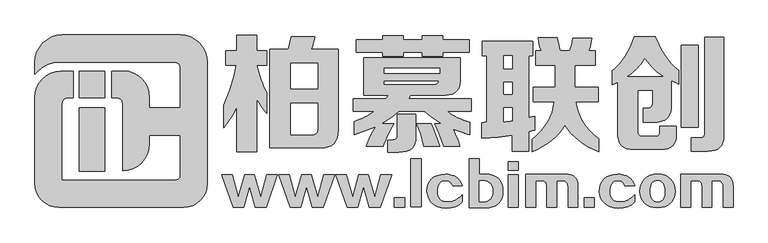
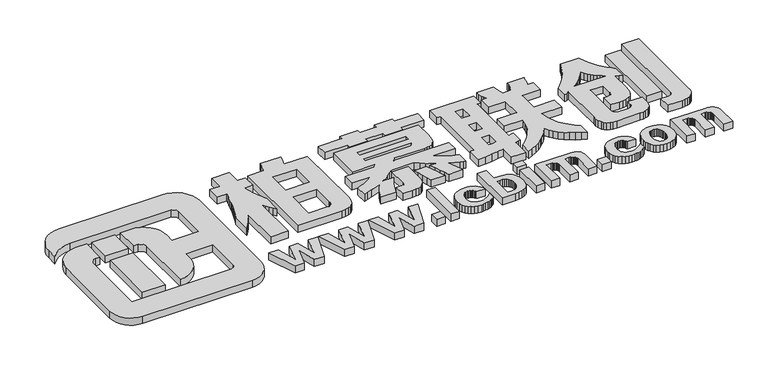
"""IFC4 building model written with IfcOpenShell, lengths in millimetres: proxy geometry, 柏慕联创LOGO横向 : 柏慕联创LOGO横向."""

from ifc_helpers import new_model, si_unit, point, frame_2d, origin, origin_with_axes, place, context, project, spatial, polyline, circle_curve, trimmed, segment, composite_curve, outline, extrude, source, transform, mapped, element, save


def generic_models_1ff84f2f(model_context):
    return source(origin(), model_context, "Body", "SweptSolid", [
        extrude(outline(polyline([(4777.6012259, 166.4614982), (4445.5447228, -774.7196972), (4119.5642765, -774.7196972), (3959.4601803, -196.5828945), (3953.3841236, -196.5828945), (3781.1279138, -774.7196972), (3473.3756379, -774.7196972), (3141.3191348, 166.4614982), (3455.1474675, 166.4614982), (3633.479734, -491.879254), (3811.8120006, 166.4614982), (4101.0323033, 166.4614982), (4285.4406266, -491.879254), (4464.076696, 166.4614982), (4777.6012259, 166.4614982)])), origin_with_axes(), (0.0, 0.0, 1.0), 250.0),
        extrude(outline(polyline([(6449.732052, 166.4614982), (6117.6755489, -774.7196972), (5791.6951026, -774.7196972), (5631.5910065, -196.5828945), (5625.5149497, -196.5828945), (5453.2587399, -774.7196972), (5145.506464, -774.7196972), (4813.4499609, 166.4614982), (5127.2782936, 166.4614982), (5305.6105602, -491.879254), (5483.9428267, 166.4614982), (5773.1631295, 166.4614982), (5957.5714528, -491.879254), (6136.2075221, 166.4614982), (6449.732052, 166.4614982)])), origin_with_axes(), (0.0, 0.0, 1.0), 250.0),
        extrude(outline(polyline([(8121.8628781, 166.4614982), (7789.8063751, -774.7196972), (7463.8259288, -774.7196972), (7303.7218326, -196.5828945), (7297.6457758, -196.5828945), (7125.3895661, -774.7196972), (6817.6372901, -774.7196972), (6485.580787, 166.4614982), (6799.4091198, 166.4614982), (6977.7413863, -491.879254), (7156.0736528, 166.4614982), (7445.2939556, 166.4614982), (7629.7022789, -491.879254), (7808.3383482, 166.4614982), (8121.8628781, 166.4614982)])), origin_with_axes(), (0.0, 0.0, 1.0), 250.0),
        extrude(outline(polyline([(8502.2240326, -787.1756136), (8206.9276731, -787.1756136), (8206.9276731, -497.9553108), (8502.2240326, -497.9553108), (8502.2240326, -787.1756136)])), origin_with_axes(), (0.0, 0.0, 1.0), 250.0),
        extrude(outline(polyline([(8986.1819552, -768.6436404), (8690.8855957, -768.6436404), (8690.8855957, 634.0140675), (8986.1819552, 634.0140675), (8986.1819552, -768.6436404)])), origin_with_axes(), (0.0, 0.0, 1.0), 250.0),
        extrude(outline(polyline([(10199.2666916, -153.4428913), (9910.0463888, -153.4428913), (9894.5904193, -117.4137734), (9875.8685694, -86.1885378), (9853.8808389, -59.7671847), (9828.6272279, -38.1497139), (9800.1077364, -21.3361255), (9768.3223644, -9.3264195), (9733.2711118, -2.120596), (9694.9539787, 0.2813452), (9641.4561976, -7.3754357), (9594.8889186, -24.2697217), (9555.252142, -50.4015128), (9522.5458676, -85.7708089), (9496.7700955, -130.3776101), (9477.9248256, -184.2219164), (9466.010058, -247.3037278), (9461.0257927, -319.6230443), (9466.0242988, -391.6812802), (9481.019817, -454.1317513), (9506.0123474, -506.9744576), (9541.0018901, -550.2093991), (9585.9884448, -583.8365759), (9640.9720118, -607.8559878), (9705.9525909, -622.267635), (9780.9301822, -627.0715174), (9831.85988, -623.8056369), (9883.1788252, -614.0079953), (9934.8870178, -597.6785927), (9986.9844578, -574.8174291), (10039.4711451, -545.4245044), (10092.3470799, -509.4998187), (10145.612262, -467.0433719), (10199.2666916, -418.0551641), (10199.2666916, -627.0715174), (10153.8956363, -668.9393461), (10103.9105755, -705.2247977), (10049.311509, -735.9278722), (9990.0984369, -761.0485694), (9926.2713592, -780.5868895), (9857.8302758, -794.5428324), (9784.7751869, -802.9163982), (9707.1060923, -805.7075868), (9586.8381434, -792.5348855), (9481.3805829, -765.3207968), (9390.7334108, -724.0653207), (9314.8966271, -668.7684571), (9253.8702318, -599.430206), (9207.6542249, -516.0505674), (9176.2486064, -418.6295414), (9159.6533763, -307.1671279), (9172.0713174, -194.5417191), (9200.0591539, -96.5178343), (9243.616886, -13.0954735), (9302.7445135, 55.7253634), (9377.4420366, 109.9446763), (9467.7094551, 149.5624653), (9573.5467692, 174.5787303), (9694.9539787, 184.9934714), (9790.2911072, 179.7054032), (9876.4002244, 163.8411987), (9953.2813303, 137.4008579), (10020.934425, 100.3843807), (10079.3595085, 52.7917672), (10128.5565808, -5.3769826), (10168.5256418, -74.1218688), (10199.2666916, -153.4428913)])), origin_with_axes(), (0.0, 0.0, 1.0), 250.0),
        extrude(outline(polyline([(10856.3922324, -799.3277271), (10394.9157199, -799.3277271), (10394.9157199, 640.0901243), (10690.2120795, 640.0901243), (10690.2120795, 191.0695282), (10856.3922324, 191.0695282), (10980.3580315, 183.1848951), (11087.7950574, 159.5309959), (11178.7033101, 120.1078307), (11253.0827895, 64.9153993), (11310.9334958, -6.0462983), (11352.2554288, -92.7772619), (11377.0485886, -195.2774916), (11385.3129752, -313.5469875), (11378.377726, -428.7974426), (11354.5339501, -528.4685084), (11313.7816474, -612.5601849), (11256.1208179, -681.072472), (11181.5514617, -734.0053698), (11090.0735787, -771.3588783), (10981.6871689, -793.1329974), (10856.3922324, -799.3277271)]), holes=[polyline([(10794.7202561, 0.2813452), (10690.2120795, 0.2813452), (10690.2120795, -620.9954606), (10800.7963129, -620.9954606), (10868.5823213, -616.2865166), (10927.3301953, -602.1596846), (10977.0399349, -578.6149646), (11017.71154, -545.6523565), (11049.3450106, -503.2718605), (11071.9403467, -451.4734764), (11085.4975484, -390.2572044), (11090.0166156, -319.6230443), (11086.7317475, -243.3163156), (11073.8391145, -177.3863526), (11051.3387167, -121.8331553), (11019.2305542, -76.6567237), (10977.5146268, -41.8570579), (10926.1909347, -17.4341578), (10865.2594778, -3.3880234), (10794.7202561, 0.2813452)])]), origin_with_axes(), (0.0, 0.0, 1.0), 250.0),
        extrude(outline(polyline([(11844.359065, 308.0336212), (11549.0627055, 308.0336212), (11549.0627055, 547.7340612), (11844.359065, 547.7340612), (11844.359065, 308.0336212)])), origin_with_axes(), (0.0, 0.0, 1.0), 250.0),
        extrude(outline(polyline([(11844.359065, -774.7196972), (11549.0627055, -774.7196972), (11549.0627055, 166.4614982), (11844.359065, 166.4614982), (11844.359065, -774.7196972)])), origin_with_axes(), (0.0, 0.0, 1.0), 250.0),
        extrude(outline(polyline([(13586.6683469, -774.7196972), (13297.4480442, -774.7196972), (13297.4480442, -184.1269781), (13293.042903, -140.9062773), (13282.8655079, -103.4483366), (13266.9158588, -71.753156), (13245.1939559, -45.8207356), (13217.6997989, -25.6510752), (13184.433388, -11.244175), (13145.3947232, -2.6000348), (13100.5838045, 0.2813452), (12965.0877383, 0.2813452), (12965.0877383, -774.7196972), (12676.1712383, -774.7196972), (12676.1712383, -171.9748645), (12673.3800497, -131.6023153), (12665.006484, -96.6127727), (12651.0505411, -67.0062367), (12631.512221, -42.7827072), (12606.3915237, -23.9421843), (12575.6884493, -10.4846679), (12539.4029977, -2.410158), (12497.535169, 0.2813452), (12343.8109324, 0.2813452), (12343.8109324, -774.7196972), (12054.5906296, -774.7196972), (12054.5906296, 184.9934714), (13205.0919811, 184.9934714), (13297.1822167, 182.2687397), (13376.5886837, 168.0184878), (13443.3113823, 142.2427156), (13497.3503123, 104.9414233), (13538.7054737, 56.1146108), (13567.3768667, -4.237722), (13583.3644911, -76.1155749), (13586.6683469, -159.5189481), (13586.6683469, -774.7196972)])), origin_with_axes(), (0.0, 0.0, 1.0), 250.0),
        extrude(outline(polyline([(14063.0311986, -787.1756136), (13767.734839, -787.1756136), (13767.734839, -497.9553108), (14063.0311986, -497.9553108), (14063.0311986, -787.1756136)])), origin_with_axes(), (0.0, 0.0, 1.0), 250.0),
        extrude(outline(polyline([(15254.5459333, -153.4428913), (14965.3256305, -153.4428913), (14949.8696611, -117.4137734), (14931.1478112, -86.1885378), (14909.1600807, -59.7671847), (14883.9064697, -38.1497139), (14855.3869782, -21.3361255), (14823.6016061, -9.3264195), (14788.5503536, -2.120596), (14750.2332205, 0.2813452), (14696.7354393, -7.3754357), (14650.1681604, -24.2697217), (14610.5313837, -50.4015128), (14577.8251093, -85.7708089), (14552.0493372, -130.3776101), (14533.2040674, -184.2219164), (14521.2892998, -247.3037278), (14516.3050344, -319.6230443), (14521.3035405, -391.6812802), (14536.2990588, -454.1317513), (14561.2915892, -506.9744576), (14596.2811318, -550.2093991), (14641.2676866, -583.8365759), (14696.2512535, -607.8559878), (14761.2318327, -622.267635), (14836.209424, -627.0715174), (14887.1391218, -623.8056369), (14938.458067, -614.0079953), (14990.1662596, -597.6785927), (15042.2636995, -574.8174291), (15094.7503869, -545.4245044), (15147.6263217, -509.4998187), (15200.8915038, -467.0433719), (15254.5459333, -418.0551641), (15254.5459333, -627.0715174), (15209.1748781, -668.9393461), (15159.1898172, -705.2247977), (15104.5907507, -735.9278722), (15045.3776786, -761.0485694), (14981.5506009, -780.5868895), (14913.1095176, -794.5428324), (14840.0544286, -802.9163982), (14762.3853341, -805.7075868), (14642.1173852, -792.5348855), (14536.6598247, -765.3207968), (14446.0126526, -724.0653207), (14370.1758689, -668.7684571), (14309.1494736, -599.430206), (14262.9334667, -516.0505674), (14231.5278482, -418.6295414), (14214.9326181, -307.1671279), (14227.3505591, -194.5417191), (14255.3383957, -96.5178343), (14298.8961277, -13.0954735), (14358.0237553, 55.7253634), (14432.7212783, 109.9446763), (14522.9886969, 149.5624653), (14628.8260109, 174.5787303), (14750.2332205, 184.9934714), (14845.5703489, 179.7054032), (14931.6794661, 163.8411987), (15008.5605721, 137.4008579), (15076.2136668, 100.3843807), (15134.6387503, 52.7917672), (15183.8358225, -5.3769826), (15223.8048835, -74.1218688), (15254.5459333, -153.4428913)])), origin_with_axes(), (0.0, 0.0, 1.0), 250.0),
        extrude(outline(polyline([(16434.5161602, -313.5469875), (16422.3877812, -423.4144361), (16395.2686309, -519.2404972), (16353.1587093, -601.0251709), (16296.0580163, -668.7684571), (16223.966552, -722.4703558), (16136.8843163, -762.130867), (16034.8113093, -787.7499908), (15917.747531, -799.3277271), (15802.01289, -786.3543965), (15700.8892669, -759.7384197), (15614.3766616, -719.4797966), (15542.475074, -665.5785272), (15485.1845043, -598.0346117), (15442.5049523, -516.8480498), (15414.4364181, -422.0188418), (15400.9789017, -313.5469875), (15414.5313565, -199.3313608), (15442.8847059, -99.7267518), (15486.0389498, -14.7331607), (15543.9940882, 55.6494127), (15616.7501213, 111.4209682), (15704.3070489, 152.581506), (15806.664871, 179.131026), (15923.8235877, 191.0695282), (16039.4632903, 180.4601634), (16140.3020982, 154.8600273), (16226.3400116, 114.2691198), (16297.5770305, 58.6874411), (16354.0131548, -11.8850091), (16395.6483845, -97.4482305), (16422.4827196, -198.0022233), (16434.5161602, -313.5469875)]), holes=[polyline([(16139.2198006, -313.5469875), (16134.430159, -241.3226094), (16123.0992625, -178.5256132), (16105.2271111, -125.1559988), (16080.8137048, -81.2137663), (16049.8590437, -46.6989157), (16012.3631277, -21.6114468), (15968.3259567, -5.9513599), (15917.747531, 0.2813452), (15867.2640436, -4.6222225), (15823.5116878, -19.3329256), (15786.4904637, -43.850764), (15756.2003713, -78.1757379), (15732.6414105, -122.3078472), (15715.8135814, -176.2470919), (15705.7168839, -239.993472), (15702.3513181, -313.5469875), (15707.0460213, -384.276086), (15718.0921027, -445.7771732), (15735.4895621, -498.0502492), (15759.2383997, -541.0953139), (15789.3386154, -574.9123675), (15825.7902091, -599.5014097), (15868.593181, -614.8624408), (15917.747531, -620.9954606), (15969.6550942, -616.1915782), (16014.6416489, -601.779931), (16052.7071953, -577.7605191), (16083.8517332, -544.1333423), (16108.0752627, -500.8984008), (16125.3777838, -448.0556945), (16135.7592964, -385.6052234), (16139.2198006, -313.5469875)])]), origin_with_axes(), (0.0, 0.0, 1.0), 250.0),
        extrude(outline(polyline([(18136.4196645, -774.7196972), (17847.1993618, -774.7196972), (17847.1993618, -184.1269781), (17842.7942206, -140.9062773), (17832.6168255, -103.4483366), (17816.6671764, -71.753156), (17794.9452734, -45.8207356), (17767.4511165, -25.6510752), (17734.1847056, -11.244175), (17695.1460408, -2.6000348), (17650.3351221, 0.2813452), (17514.8390558, 0.2813452), (17514.8390558, -774.7196972), (17225.9225559, -774.7196972), (17225.9225559, -171.9748645), (17223.1313673, -131.6023153), (17214.7578016, -96.6127727), (17200.8018587, -67.0062367), (17181.2635386, -42.7827072), (17156.1428413, -23.9421843), (17125.4397669, -10.4846679), (17089.1543153, -2.410158), (17047.2864865, 0.2813452), (16893.56225, 0.2813452), (16893.56225, -774.7196972), (16604.3419472, -774.7196972), (16604.3419472, 184.9934714), (17754.8432987, 184.9934714), (17846.9335343, 182.2687397), (17926.3400013, 168.0184878), (17993.0626999, 142.2427156), (18047.1016299, 104.9414233), (18088.4567913, 56.1146108), (18117.1281843, -4.237722), (18133.1158087, -76.1155749), (18136.4196645, -159.5189481), (18136.4196645, -774.7196972)])), origin_with_axes(), (0.0, 0.0, 1.0), 250.0),
        extrude(outline(polyline([(4556.8978666, 960.5221339), (4556.8978666, 3847.1253635), (5097.0001581, 3847.1253635), (5126.0769975, 3953.6192877), (5155.1538369, 4097.1861821), (5169.6922566, 4163.3359917), (5184.2306763, 4214.9473816), (5870.4440857, 4214.9473816), (5822.6490309, 4020.1325578), (5796.1618476, 3930.9030069), (5767.9482269, 3847.1253635), (6555.9305741, 3847.1253635), (6555.9305741, 1493.3552156), (6550.8989179, 1365.2921828), (6528.5347395, 1254.788835), (6488.8380388, 1161.8451722), (6431.808816, 1086.4611945), (6357.4470709, 1028.6369018), (6265.7528036, 988.3722941), (6156.726014, 965.6673715), (6030.3667023, 960.5221339), (4556.8978666, 960.5221339)]), holes=[polyline([(5160.2422838, 3434.2342443), (5160.2422838, 2691.3209981), (5952.5861569, 2691.3209981), (5952.5861569, 3434.2342443), (5160.2422838, 3434.2342443)]), polyline([(5952.5861569, 1539.1512376), (5952.5861569, 2263.8914592), (5160.2422838, 2263.8914592), (5160.2422838, 1342.8825718), (5794.1173823, 1342.8825718), (5834.5977946, 1345.9492697), (5869.1719739, 1355.1493634), (5897.8399203, 1370.4828529), (5920.6016336, 1391.9497382), (5937.4571139, 1419.5500194), (5948.4063613, 1453.2836963), (5953.4493756, 1493.1507691), (5952.5861569, 1539.1512376)])]), origin_with_axes(), (0.0, 0.0, 1.0), 250.0),
        extrude(outline(polyline([(3263.7054352, 3380.4420914), (3263.7054352, 3807.8716303), (3587.1852733, 3807.8716303), (3587.1852733, 4264.3780086), (4175.9912708, 4264.3780086), (4175.9912708, 3807.8716303), (4455.8558498, 3807.8716303), (4455.8558498, 3380.4420914), (4175.9912708, 3380.4420914), (4199.7638586, 3277.8553675), (4226.739442, 3176.1772948), (4256.918021, 3075.4078733), (4290.2995956, 2975.547103), (4326.8841657, 2876.594984), (4366.6717315, 2778.5515162), (4409.6622929, 2681.4166997), (4455.8558498, 2585.1905343), (4455.8558498, 1981.8461172), (4377.5755463, 2084.1148132), (4304.8380153, 2184.4753416), (4237.6432568, 2282.9277025), (4175.9912708, 2379.4718957), (4175.9912708, 848.5763023), (3587.1852733, 848.5763023), (3587.1852733, 2158.4879164), (3513.6753887, 2010.3777658), (3425.4453542, 1860.4503128), (3322.4951698, 1708.7055572), (3204.8248354, 1555.1434993), (3204.8248354, 2202.8300965), (3265.2728586, 2353.2118752), (3321.5865186, 2502.6850026), (3373.7658155, 2651.2494788), (3421.8107493, 2798.9053038), (3465.72132, 2945.6524775), (3505.4975277, 3091.4910001), (3541.1393722, 3236.4208713), (3572.6468536, 3380.4420914), (3263.7054352, 3380.4420914)])), origin_with_axes(), (0.0, 0.0, 1.0), 250.0),
        extrude(outline(polyline([(7022.6138461, 1340.7018088), (7022.6138461, 1732.5122195), (7109.3105317, 1762.7248729), (7192.3953286, 1795.2091544), (7271.8682368, 1829.965064), (7347.7292565, 1866.9926016), (7419.9783874, 1906.2917674), (7488.6156298, 1947.8625612), (7553.6409835, 1991.704983), (7615.0544485, 2037.819033), (6992.8100858, 2037.819033), (6992.8100858, 2405.6410512), (7958.8880742, 2405.6410512), (8033.0340146, 2508.863831), (7301.7515042, 2508.863831), (7301.7515042, 3609.4222015), (10138.1971858, 3609.4222015), (10138.1971858, 3044.6045966), (10137.5611299, 2912.679796), (10121.1145427, 2799.3141968), (10088.857424, 2704.5077991), (10040.7897739, 2628.2606027), (9976.9115924, 2570.5726077), (9897.2228794, 2531.443814), (9801.7236351, 2510.8742218), (9690.4138593, 2508.863831), (8690.1705846, 2508.863831), (8675.0869742, 2490.5090761), (8660.3668243, 2464.5216509), (8634.1976688, 2427.6304109), (8615.2977232, 2405.6410512), (10461.6770239, 2405.6410512), (10461.6770239, 2037.819033), (9750.0213801, 2037.819033), (9819.2946783, 1985.1172616), (9892.6341907, 1936.0500952), (9970.0399174, 1890.6175336), (10051.5118584, 1848.819577), (10137.0500136, 1810.6562253), (10226.6543831, 1776.1274786), (10320.3249668, 1745.2333367), (10418.0617648, 1717.9737998), (10418.0617648, 1340.7018088), (10344.4610152, 1362.5094384), (10241.4199656, 1398.8554876), (9928.8439423, 1500.6244254), (9991.4045795, 1366.1440433), (10044.606109, 1238.932871), (10088.4485309, 1118.9909086), (10122.9318451, 1006.318156), (9645.3447583, 1006.318156), (9595.9595639, 1172.5558986), (9537.2152618, 1336.8854737), (9469.1118521, 1499.3068811), (9391.6493347, 1659.820121), (9601.0025782, 1659.820121), (9473.2007826, 1737.9641269), (9343.4908195, 1827.0119475), (9211.8726887, 1926.9635829), (9078.3463904, 2037.819033), (8331.7985393, 2037.819033), (8216.1272376, 1935.1868765), (8093.0049958, 1839.5513345), (7962.431814, 1750.9124069), (7824.4076921, 1669.2700938), (8182.7797374, 1669.2700938), (8068.9711708, 1456.6457059), (7981.2408945, 1275.2789202), (7919.5889085, 1125.1697369), (7898.5422743, 1061.8367461), (7884.0152128, 1006.318156), (7376.6243656, 1006.318156), (7433.3242024, 1156.2001765), (7499.474012, 1300.5394244), (7575.0737944, 1439.3358999), (7660.1235496, 1572.5896029), (7301.7515042, 1442.4707467), (7143.6461901, 1387.9516728), (7022.6138461, 1340.7018088)]), holes=[polyline([(9332.7687349, 2818.5321704), (9367.4224213, 2820.0882356), (9397.9644607, 2824.7564313), (9424.3948534, 2832.5367575), (9446.7135993, 2843.4292141), (9464.9206983, 2857.4338012), (9479.0161505, 2874.5505187), (9488.9999559, 2894.7793668), (9494.8721145, 2918.1203452), (7905.0959213, 2918.1203452), (7905.0959213, 2818.5321704), (9332.7687349, 2818.5321704)]), polyline([(7905.0959213, 3299.7538621), (7905.0959213, 3153.6427442), (9534.8527686, 3153.6427442), (9534.8527686, 3299.7538621), (7905.0959213, 3299.7538621)])]), origin_with_axes(), (0.0, 0.0, 1.0), 250.0),
        extrude(outline(polyline([(7860.0268203, 3641.4067248), (7860.0268203, 3759.1679243), (7080.0406039, 3759.1679243), (7080.0406039, 4126.9899425), (7860.0268203, 4126.9899425), (7860.0268203, 4244.751142), (8463.3712375, 4244.751142), (8463.3712375, 4126.9899425), (9023.1003955, 4126.9899425), (9023.1003955, 4244.751142), (9626.4448127, 4244.751142), (9626.4448127, 4126.9899425), (10406.4310291, 4126.9899425), (10406.4310291, 3759.1679243), (9626.4448127, 3759.1679243), (9626.4448127, 3641.4067248), (9023.1003955, 3641.4067248), (9023.1003955, 3759.1679243), (8463.3712375, 3759.1679243), (8463.3712375, 3641.4067248), (7860.0268203, 3641.4067248)])), origin_with_axes(), (0.0, 0.0, 1.0), 250.0),
        extrude(outline(polyline([(9279.7035031, 1668.5431729), (9355.8484762, 1494.6727599), (9422.906937, 1326.3451194), (9480.8788855, 1163.5602514), (9529.7643218, 1006.318156), (9073.2579435, 1006.318156), (9026.4624051, 1196.5442911), (8974.0332291, 1370.323839), (8915.9704154, 1527.6567995), (8852.2739642, 1668.5431729), (9279.7035031, 1668.5431729)])), origin_with_axes(), (0.0, 0.0, 1.0), 250.0),
        extrude(outline(polyline([(8284.5486753, 1939.6847001), (8829.7394137, 1939.6847001), (8829.7394137, 1277.4596832), (8825.0939342, 1170.6931636), (8803.8882861, 1078.6467939), (8766.1224694, 1001.3205742), (8711.7964839, 938.7145044), (8640.9103298, 890.8285845), (8553.464007, 857.6628146), (8449.4575155, 839.2171946), (8328.8908553, 835.4917246), (8004.6840962, 835.4917246), (8004.6840962, 1188.7753231), (8136.9837154, 1188.7753231), (8174.7495322, 1190.8425046), (8206.9952927, 1197.0440493), (8233.7209971, 1207.379957), (8254.9266451, 1221.8502279), (8270.612237, 1240.4548618), (8280.7777727, 1263.1938589), (8285.4232521, 1290.067219), (8284.5486753, 1321.0749423), (8284.5486753, 1939.6847001)])), origin_with_axes(), (0.0, 0.0, 1.0), 250.0),
        extrude(outline(polyline([(10786.610704, 3666.8489593), (10786.610704, 4079.7400785), (12267.3487495, 4079.7400785), (12267.3487495, 3666.8489593), (12149.58755, 3666.8489593), (12149.58755, 1841.5503672), (12237.7267193, 1867.1743319), (12326.2293492, 1885.8925472), (12326.2293492, 1473.728349), (12237.7267193, 1455.0101337), (12149.58755, 1429.3861689), (12149.58755, 855.1185912), (11664.0043323, 855.1185912), (11664.0043323, 1326.1633891), (11455.0599818, 1293.1339169), (11236.7565237, 1267.4645196), (11009.0939578, 1249.1551973), (10772.0722843, 1238.20595), (10772.0722843, 1693.9854073), (10805.3289193, 1697.8017425), (10845.4913037, 1709.250748), (10919.6372442, 1709.250748), (10919.6372442, 3666.8489593), (10786.610704, 3666.8489593)]), holes=[polyline([(11405.2204618, 3666.8489593), (11405.2204618, 3281.5808375), (11664.0043323, 3281.5808375), (11664.0043323, 3666.8489593), (11405.2204618, 3666.8489593)]), polyline([(11405.2204618, 2883.228138), (11405.2204618, 2537.2137494), (11664.0043323, 2537.2137494), (11664.0043323, 2883.228138), (11405.2204618, 2883.228138)]), polyline([(11405.2204618, 1726.6968516), (11469.9164294, 1728.5595866), (11534.6123971, 1734.1477917), (11599.3083647, 1743.4614668), (11664.0043323, 1756.500612), (11664.0043323, 2138.8610498), (11405.2204618, 2138.8610498), (11405.2204618, 1726.6968516)])]), origin_with_axes(), (0.0, 0.0, 1.0), 250.0),
        extrude(outline(polyline([(12348.7638997, 3387.7113012), (12348.7638997, 3800.6024205), (12525.405699, 3800.6024205), (12485.6976402, 3885.3341477), (12455.257824, 3977.4259499), (12434.0862503, 4076.8778271), (12422.1829192, 4183.6897793), (12981.1851563, 4183.6897793), (12997.9043389, 4088.0542373), (13018.2581265, 3992.3278301), (13042.246519, 3896.5105579), (13069.8695164, 3800.6024205), (13349.0071744, 3800.6024205), (13382.3546746, 3889.8774039), (13408.2512347, 3981.0605549), (13426.6968546, 4074.1518734), (13437.6915345, 4169.1513596), (13997.4206926, 4169.1513596), (13993.6043575, 4146.7985393), (13982.1553519, 4110.2707599), (13965.7541972, 4013.4994038), (13945.6275725, 3929.6308952), (13921.7754777, 3858.6652341), (13894.1979128, 3800.6024205), (14099.9165514, 3800.6024205), (14099.9165514, 3387.7113012), (13496.5721343, 3387.7113012), (13496.5721343, 2730.5747312), (14188.6009116, 2730.5747312), (14188.6009116, 2317.683612), (13526.3758947, 2317.683612), (13549.8304545, 2162.1679539), (13590.7538343, 2012.1950683), (13649.1460341, 1867.7649552), (13725.0070537, 1728.8776146), (13818.3368932, 1595.5330465), (13929.1355526, 1467.7312509), (14057.403032, 1345.4722278), (14203.1393312, 1228.7559772), (14203.1393312, 845.6686184), (14036.1178769, 919.0762797), (13881.0679025, 999.366974), (13737.9894081, 1086.5407015), (13606.8823937, 1180.597462), (13487.7468592, 1281.5372556), (13380.5828047, 1389.3600822), (13285.3902301, 1504.065942), (13202.1691356, 1625.6548348), (13126.0014461, 1507.2462213), (13037.4306674, 1394.8119896), (12936.4567994, 1288.3521398), (12823.0798421, 1187.8666718), (12697.2997955, 1093.3555857), (12559.1166596, 1004.8188814), (12408.5304344, 922.256559), (12245.5411199, 845.6686184), (12245.5411199, 1213.4906365), (12384.462535, 1333.7847013), (12506.8237813, 1459.1444968), (12612.624859, 1589.5700228), (12701.865768, 1725.0612794), (12774.5465083, 1865.6182666), (12830.6670799, 2011.2409845), (12870.2274829, 2161.929433), (12893.2277171, 2317.683612), (12274.6179593, 2317.683612), (12274.6179593, 2730.5747312), (12922.3045565, 2730.5747312), (12922.3045565, 3387.7113012), (12348.7638997, 3387.7113012)])), origin_with_axes(), (0.0, 0.0, 1.0), 250.0),
        extrude(outline(polyline([(16611.428553, 1566.047314), (16611.428553, 3965.6134839), (17111.5501903, 3965.6134839), (17111.5501903, 1566.047314), (16611.428553, 1566.047314)])), origin_with_axes(), (0.0, 0.0, 1.0), 250.0),
        extrude(outline(polyline([(17302.7304092, 4208.4050928), (17862.4595673, 4208.4050928), (17862.4595673, 1323.2557052), (17858.4387856, 1213.0931016), (17838.7437702, 1118.1276899), (17803.374521, 1038.35947), (17752.3310382, 973.7884419), (17685.6133216, 924.4146057), (17603.2213712, 890.2379612), (17505.1551871, 871.2585087), (17391.4147694, 867.4762479), (16905.1046307, 867.4762479), (16905.1046307, 1249.8366858), (17170.4307901, 1249.8366858), (17201.4385133, 1251.9038673), (17228.3118735, 1258.105412), (17251.0508705, 1268.4413197), (17269.6555044, 1282.9115906), (17284.1257753, 1301.5162245), (17294.461683, 1324.2552216), (17300.6632277, 1351.1285817), (17302.7304092, 1382.136305), (17302.7304092, 4208.4050928)])), origin_with_axes(), (0.0, 0.0, 1.0), 250.0),
        extrude(outline(polyline([(15240.4555762, 4215.6743026), (15861.2460969, 4215.6743026), (15920.5242316, 4064.9404216), (15987.1397249, 3922.0436574), (16061.092577, 3786.9840101), (16142.3827877, 3659.7614797), (16231.0103571, 3540.3760661), (16326.9752852, 3428.8277694), (16430.277572, 3325.1165896), (16540.9172175, 3229.2425266), (16540.9172175, 2831.6167481), (16434.0598327, 2879.5935331), (16319.9332382, 2934.8395279), (16319.9332382, 2257.3491703), (16321.1144848, 2123.2208905), (16302.4871345, 2007.9698401), (16264.0511875, 1911.5960189), (16205.8066436, 1834.0994271), (16127.7535029, 1775.4800646), (16029.8917653, 1735.7379314), (15912.221431, 1714.8730275), (15774.7424998, 1712.8853529), (15494.8779207, 1712.8853529), (15494.8779207, 2125.7764721), (15612.6391202, 2125.7764721), (15653.8123791, 2128.3206956), (15689.0112562, 2135.9533659), (15718.2357514, 2148.6744831), (15741.4858647, 2166.4840473), (15758.7615963, 2189.3820583), (15770.0629459, 2217.3685162), (15775.3899138, 2250.443421), (15774.7424998, 2288.6067727), (15774.7424998, 2643.3442131), (15341.497593, 2643.3442131), (15341.497593, 1503.5321094), (15340.8615371, 1451.7957799), (15346.5860399, 1407.4422417), (15358.6711013, 1370.4714948), (15377.1167212, 1340.8835391), (15401.9228998, 1318.6783746), (15433.0896371, 1303.8560014), (15470.6169329, 1296.4164195), (15514.5047873, 1296.4164195), (15832.1692576, 1296.4164195), (15872.4906559, 1295.9393776), (15906.9512538, 1301.9478338), (15935.5510513, 1314.3849976), (15958.2900484, 1333.2508687), (15975.168245, 1358.5454474), (15986.1856411, 1390.2687335), (15991.3422369, 1428.420727), (15990.6380322, 1473.001428), (15990.6380322, 1590.7626275), (16476.2212498, 1590.7626275), (16476.2212498, 1385.0439889), (16472.0982449, 1271.3035711), (16452.4600202, 1173.237387), (16417.3065757, 1090.8454367), (16366.6379114, 1024.1277201), (16300.4540274, 973.0842372), (16218.7549236, 937.714988), (16121.5406001, 918.0199726), (16008.8110568, 913.9991909), (15234.6402083, 913.9991909), (15118.3442089, 915.5666143), (15018.0631875, 935.1707646), (14933.7971439, 972.8116418), (14865.5460784, 1028.489246), (14813.3099908, 1102.2035771), (14777.0888811, 1193.9546351), (14756.8827493, 1303.74242), (14752.6915955, 1431.5669319), (14752.6915955, 2890.4973478), (14664.0072354, 2846.1551678), (14590.588216, 2817.0783284), (14590.588216, 3214.7041069), (14697.5818984, 3310.8053327), (14797.2155058, 3415.198001), (14889.4890383, 3527.8821117), (14974.4024958, 3648.8576649), (15051.9558784, 3778.1246606), (15122.1491859, 3915.6830988), (15184.9824185, 4061.5329795), (15240.4555762, 4215.6743026)]), holes=[polyline([(15550.1239156, 3571.6223103), (15497.3085628, 3492.6491602), (15441.7218237, 3417.8330895), (15383.3636985, 3347.1740982), (15322.2341869, 3280.6721863), (15258.3332891, 3218.3273537), (15191.6610051, 3160.1396005), (15122.2173348, 3106.1089267), (15050.0022782, 3056.2353323), (16080.0493133, 3056.2353323), (16010.5488523, 3099.7483681), (15941.9797588, 3149.2357858), (15874.3420328, 3204.6975853), (15807.6356743, 3266.1337666), (15741.8606834, 3333.5443298), (15677.0170599, 3406.9292748), (15613.104804, 3486.2886016), (15550.1239156, 3571.6223103)])]), origin_with_axes(), (0.0, 0.0, 1.0), 250.0),
        extrude(outline(polyline([(-281.8237582, 3202.1179084), (-281.8237582, 2422.1179084), (-1041.8237582, 2422.1179084), (-1041.8237582, 3202.1179084), (-281.8237582, 3202.1179084)])), origin_with_axes(), (0.0, 0.0, 1.0), 250.0),
        extrude(outline(polyline([(-281.8237582, 2139.5572773), (-281.8237582, 268.5266006), (-1041.8237582, 268.5266006), (-1041.8237582, 2139.5572773), (-281.8237582, 2139.5572773)])), origin_with_axes(), (0.0, 0.0, 1.0), 250.0),
        extrude(outline(composite_curve([segment(polyline([(1764.0477416, 3466.1280964), (-1631.7822346, 3466.1280964)]), True, "CONTINUOUS"), segment(trimmed(circle_curve(frame_2d((-1631.7822346, 2590.8681051)), 875.2599913), [point((-1631.7822346, 3466.1280964))], [point((-2335.0494551, 3111.920184))], True, "CARTESIAN"), True, "CONTINUOUS"), segment(polyline([(-2335.0494551, 3111.920184), (-2335.0494551, 3471.8822063)]), True, "CONTINUOUS"), segment(trimmed(circle_curve(frame_2d((-1535.0494551, 3471.8822063)), 800.0), [point((-2335.0494551, 3471.8822063))], [point((-1535.0494551, 4271.8822063))], False, "CARTESIAN"), True, "CONTINUOUS"), segment(polyline([(-1535.0494551, 4271.8822063), (1924.0477416, 4271.8822063)]), True, "CONTINUOUS"), segment(trimmed(circle_curve(frame_2d((1924.0477416, 3471.8822063)), 800.0), [point((1924.0477416, 4271.8822063))], [point((2724.0477416, 3471.8822063))], False, "CARTESIAN"), True, "CONTINUOUS"), segment(polyline([(2724.0477416, 3471.8822063), (2724.0477416, -84.1354638)]), True, "CONTINUOUS"), segment(trimmed(circle_curve(frame_2d((2024.0477416, -84.1354638)), 700.0), [point((2724.0477416, -84.1354638))], [point((2024.0477416, -784.1354638))], False, "CARTESIAN"), True, "CONTINUOUS"), segment(polyline([(2024.0477416, -784.1354638), (-1635.0494551, -784.1354638)]), True, "CONTINUOUS"), segment(trimmed(circle_curve(frame_2d((-1635.0494551, -84.1354638)), 700.0), [point((-1635.0494551, -784.1354638))], [point((-2335.0494551, -84.1354638))], False, "CARTESIAN"), True, "CONTINUOUS"), segment(polyline([(-2335.0494551, -84.1354638), (-2335.0494551, 2443.9856292)]), True, "CONTINUOUS"), segment(trimmed(circle_curve(frame_2d((-1575.0494551, 2443.9856292)), 760.0), [point((-2335.0494551, 2443.9856292))], [point((-1575.0494551, 3203.9856292))], False, "CARTESIAN"), True, "CONTINUOUS"), segment(polyline([(-1575.0494551, 3203.9856292), (-1215.0494551, 3203.9856292), (-1215.0494551, 2433.2869821), (-1361.2653547, 2433.2869821)]), True, "CONTINUOUS"), segment(trimmed(circle_curve(frame_2d((-1361.2653547, 2253.2869821)), 180.0), [point((-1361.2653547, 2433.2869821))], [point((-1541.2653547, 2253.2869821))], True, "CARTESIAN"), True, "CONTINUOUS"), segment(polyline([(-1541.2653547, 2253.2869821), (-1541.2653547, 15.8370642), (1804.0477416, 15.8370642)]), True, "CONTINUOUS"), segment(trimmed(circle_curve(frame_2d((1804.0477416, 135.8370642)), 120.0), [point((1804.0477416, 15.8370642))], [point((1924.0477416, 135.8370642))], True, "CARTESIAN"), True, "CONTINUOUS"), segment(polyline([(1924.0477416, 135.8370642), (1924.0477416, 1333.2869821), (1024.0477416, 1333.2869821), (1024.0477416, 1080.3031797)]), True, "CONTINUOUS"), segment(trimmed(circle_curve(frame_2d((235.6989826, 1080.3031797)), 788.348759), [point((1024.0477416, 1080.3031797))], [point((235.6989826, 291.9544207))], False, "CARTESIAN"), True, "CONTINUOUS"), segment(polyline([(235.6989826, 291.9544207), (235.6989826, 2253.2869821)]), True, "CONTINUOUS"), segment(trimmed(circle_curve(frame_2d((55.6989826, 2253.2869821)), 180.0), [point((235.6989826, 2253.2869821))], [point((55.6989826, 2433.2869821))], True, "CARTESIAN"), True, "CONTINUOUS"), segment(polyline([(55.6989826, 2433.2869821), (-83.0692068, 2433.2869821), (-83.0692068, 3203.9856292), (416.9307932, 3203.9856292)]), True, "CONTINUOUS"), segment(trimmed(circle_curve(frame_2d((231.3113535, 2433.2869821)), 792.7363881), [point((416.9307932, 3203.9856292))], [point((1024.0477416, 2433.2869821))], False, "CARTESIAN"), True, "CONTINUOUS"), segment(polyline([(1024.0477416, 2433.2869821), (1024.0477416, 2133.2869821), (1924.0477416, 2133.2869821), (1924.0477416, 3306.1280964)]), True, "CONTINUOUS"), segment(trimmed(circle_curve(frame_2d((1764.0477416, 3306.1280964)), 160.0), [point((1924.0477416, 3306.1280964))], [point((1764.0477416, 3466.1280964))], True, "CARTESIAN"), True, "CONTINUOUS")], self_intersect=False)), origin_with_axes(), (0.0, 0.0, 1.0), 250.0),
    ])


if __name__ == "__main__":
    model = new_model("IFC4")
    model_context = context("Model", 3, world=origin())
    ifc_project = project(units=[si_unit("LENGTHUNIT", "METRE", prefix="MILLI")], contexts=[model_context])
    site = spatial("IfcSite", under=ifc_project)
    building = spatial("IfcBuilding", under=site)
    placement = place(None, origin())
    generic_models_shape = generic_models_1ff84f2f(model_context)
    element("IfcBuildingElementProxy", 1, Name="柏慕联创LOGO横向 : 柏慕联创LOGO横向", ObjectType="柏慕联创LOGO横向 : 柏慕联创LOGO横向", at=placement, inside=building, context=model_context, shape_type="MappedRepresentation", body=[
        mapped(generic_models_shape, transform((0.0, 0.0, 0.0), x_axis=(1.0, 0.0, 0.0), y_axis=(0.0, 1.0, 0.0), z_axis=(0.0, 0.0, 1.0))),
    ])
    save(model, "model.ifc")
